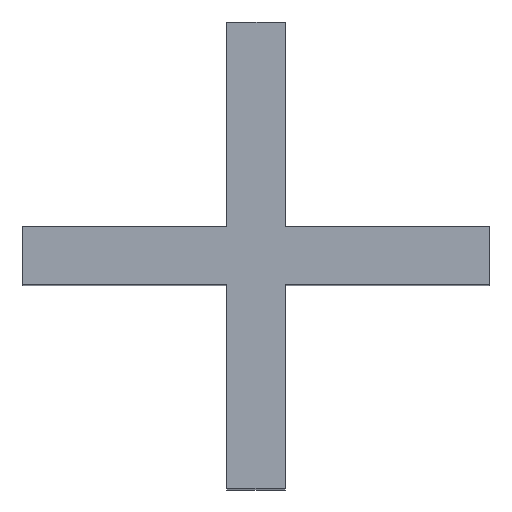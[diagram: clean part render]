
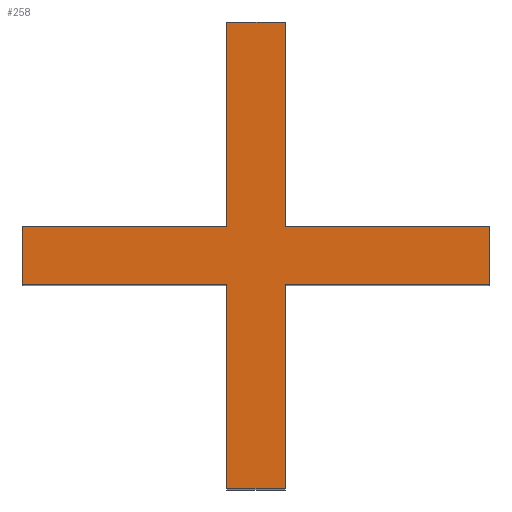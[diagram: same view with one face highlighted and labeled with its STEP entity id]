
A CAD part, top view. The second image highlights one B-rep face of the part: STEP entity #258.
In plain terms, the highlighted planar face has unit normal (0, 0, 1).
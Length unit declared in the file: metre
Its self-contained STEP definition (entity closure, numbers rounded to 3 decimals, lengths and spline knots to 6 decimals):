
#12=ORIENTED_EDGE('',*,*,#84,.T.);
#13=ORIENTED_EDGE('',*,*,#85,.T.);
#14=ORIENTED_EDGE('',*,*,#86,.T.);
#15=ORIENTED_EDGE('',*,*,#87,.F.);
#16=ORIENTED_EDGE('',*,*,#88,.T.);
#17=ORIENTED_EDGE('',*,*,#89,.T.);
#18=ORIENTED_EDGE('',*,*,#90,.T.);
#19=ORIENTED_EDGE('',*,*,#91,.F.);
#20=ORIENTED_EDGE('',*,*,#92,.T.);
#21=ORIENTED_EDGE('',*,*,#93,.T.);
#22=ORIENTED_EDGE('',*,*,#94,.T.);
#23=ORIENTED_EDGE('',*,*,#95,.T.);
#84=EDGE_CURVE('',#120,#121,#144,.F.);
#85=EDGE_CURVE('',#121,#122,#145,.F.);
#86=EDGE_CURVE('',#122,#123,#146,.F.);
#87=EDGE_CURVE('',#124,#123,#147,.F.);
#88=EDGE_CURVE('',#124,#125,#148,.F.);
#89=EDGE_CURVE('',#125,#126,#149,.T.);
#90=EDGE_CURVE('',#126,#127,#150,.T.);
#91=EDGE_CURVE('',#128,#127,#151,.F.);
#92=EDGE_CURVE('',#128,#129,#152,.T.);
#93=EDGE_CURVE('',#129,#130,#153,.F.);
#94=EDGE_CURVE('',#130,#131,#154,.T.);
#95=EDGE_CURVE('',#131,#120,#155,.F.);
#120=VERTEX_POINT('',#368);
#121=VERTEX_POINT('',#369);
#122=VERTEX_POINT('',#371);
#123=VERTEX_POINT('',#373);
#124=VERTEX_POINT('',#375);
#125=VERTEX_POINT('',#377);
#126=VERTEX_POINT('',#379);
#127=VERTEX_POINT('',#381);
#128=VERTEX_POINT('',#383);
#129=VERTEX_POINT('',#385);
#130=VERTEX_POINT('',#387);
#131=VERTEX_POINT('',#389);
#144=LINE('',#367,#180);
#145=LINE('',#370,#181);
#146=LINE('',#372,#182);
#147=LINE('',#374,#183);
#148=LINE('',#376,#184);
#149=LINE('',#378,#185);
#150=LINE('',#380,#186);
#151=LINE('',#382,#187);
#152=LINE('',#384,#188);
#153=LINE('',#386,#189);
#154=LINE('',#388,#190);
#155=LINE('',#390,#191);
#180=VECTOR('',#303,1.);
#181=VECTOR('',#304,1.);
#182=VECTOR('',#305,1.);
#183=VECTOR('',#306,1.);
#184=VECTOR('',#307,1.);
#185=VECTOR('',#308,1.);
#186=VECTOR('',#309,1.);
#187=VECTOR('',#310,1.);
#188=VECTOR('',#311,1.);
#189=VECTOR('',#312,1.);
#190=VECTOR('',#313,1.);
#191=VECTOR('',#314,1.);
#216=EDGE_LOOP('',(#12,#13,#14,#15,#16,#17,#18,#19,#20,#21,#22,#23));
#230=FACE_BOUND('',#216,.T.);
#244=PLANE('',#285);
#258=ADVANCED_FACE('',(#230),#244,.T.);
#285=AXIS2_PLACEMENT_3D('',#366,#301,#302);
#301=DIRECTION('',(0.,0.,1.));
#302=DIRECTION('',(1.,0.,0.));
#303=DIRECTION('',(0.,1.,0.));
#304=DIRECTION('',(1.,0.,0.));
#305=DIRECTION('',(0.,1.,0.));
#306=DIRECTION('',(1.,0.,0.));
#307=DIRECTION('',(0.,1.,0.));
#308=DIRECTION('',(1.,0.,0.));
#309=DIRECTION('',(0.,1.,0.));
#310=DIRECTION('',(1.,0.,0.));
#311=DIRECTION('',(0.,1.,0.));
#312=DIRECTION('',(1.,0.,0.));
#313=DIRECTION('',(0.,1.,0.));
#314=DIRECTION('',(1.,0.,0.));
#366=CARTESIAN_POINT('',(0.00125,0.01,0.04));
#367=CARTESIAN_POINT('',(0.,0.01,0.04));
#368=CARTESIAN_POINT('',(0.,0.02,0.04));
#369=CARTESIAN_POINT('',(0.,0.01125,0.04));
#370=CARTESIAN_POINT('',(0.00125,0.01125,0.04));
#371=CARTESIAN_POINT('',(-0.00875,0.01125,0.04));
#372=CARTESIAN_POINT('',(-0.00875,0.01,0.04));
#373=CARTESIAN_POINT('',(-0.00875,0.00875,0.04));
#374=CARTESIAN_POINT('',(-0.004375,0.00875,0.04));
#375=CARTESIAN_POINT('',(0.,0.00875,0.04));
#376=CARTESIAN_POINT('',(0.,0.01,0.04));
#377=CARTESIAN_POINT('',(0.,0.,0.04));
#378=CARTESIAN_POINT('',(0.00125,0.,0.04));
#379=CARTESIAN_POINT('',(0.0025,0.,0.04));
#380=CARTESIAN_POINT('',(0.0025,0.01,0.04));
#381=CARTESIAN_POINT('',(0.0025,0.00875,0.04));
#382=CARTESIAN_POINT('',(0.006875,0.00875,0.04));
#383=CARTESIAN_POINT('',(0.01125,0.00875,0.04));
#384=CARTESIAN_POINT('',(0.01125,0.01,0.04));
#385=CARTESIAN_POINT('',(0.01125,0.01125,0.04));
#386=CARTESIAN_POINT('',(0.00125,0.01125,0.04));
#387=CARTESIAN_POINT('',(0.0025,0.01125,0.04));
#388=CARTESIAN_POINT('',(0.0025,0.01,0.04));
#389=CARTESIAN_POINT('',(0.0025,0.02,0.04));
#390=CARTESIAN_POINT('',(0.00125,0.02,0.04));
